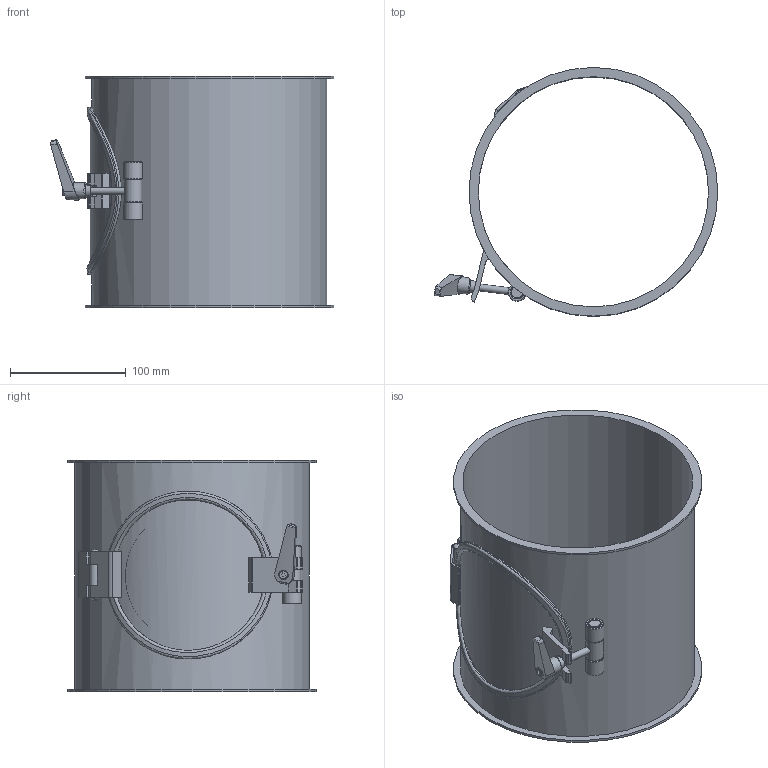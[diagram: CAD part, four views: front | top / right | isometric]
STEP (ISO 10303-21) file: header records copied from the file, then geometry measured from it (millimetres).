
FILE_DESCRIPTION((''),'2;1');
FILE_NAME('U:\Wolfgang\Marcel-3D\fertig\Kapitel 4\2021043.stp','2011-04-21T08:49:07',('TK1'),(''),'Autodesk Inventor 2010','Autodesk Inventor 2010','');
FILE_SCHEMA(('AUTOMOTIVE_DESIGN { 1 0 10303 214 1 1 1 1 }'));
Length unit declared in the file: millimetre
Products named in the file (13): 2021043 (Detailgenauigkeit1); 2021043-1; GelenkDeckel20b; GelenkDeckel1c; Deckel202; Deckel20b; GelenkDeckel22a 45; dichtung20; Halterung Deckel20; VerschlussB2; Verschluss1; Verschluss2; Verstellbarer Klemmhebel GN 101-14-M6-SW
Assembly tree (13 placements, depth 3):
  2021043 (Detailgenauigkeit1)
    2021043-1
    GelenkDeckel20b
    GelenkDeckel1c
    Deckel202
      Deckel20b
      GelenkDeckel22a 45
      dichtung20
      Halterung Deckel20
    VerschlussB2
      Verschluss1  x2
      Verschluss2
    Verstellbarer Klemmhebel GN 101-14-M6-SW
Bounding box: 245.05 x 215 x 200 mm (x, y, z)
Volume: 306085 mm3; surface area: 311245.8 mm2
Topology: 11 solids, 11 shells, 143 faces, 328 edges, 215 vertices
Faces by surface type: plane 67, cylinder 47, cone 18, torus 5, bspline 4, sphere 2
Full cylindrical faces by diameter (mm): 4.8 x1, 6 x5, 8 x1, 10 x3, 11 x2, 14 x1, 15 x1, 16 x2, 115 x1, 130 x1, 135 x1, 145 x1, 199 x1, 203 x1, 215 x2
Entity records: 5761 total; most frequent: CARTESIAN_POINT 2493, DIRECTION 632, ORIENTED_EDGE 532, EDGE_CURVE 266, AXIS2_PLACEMENT_3D 247, VERTEX_POINT 195, EDGE_LOOP 193, VECTOR 138
